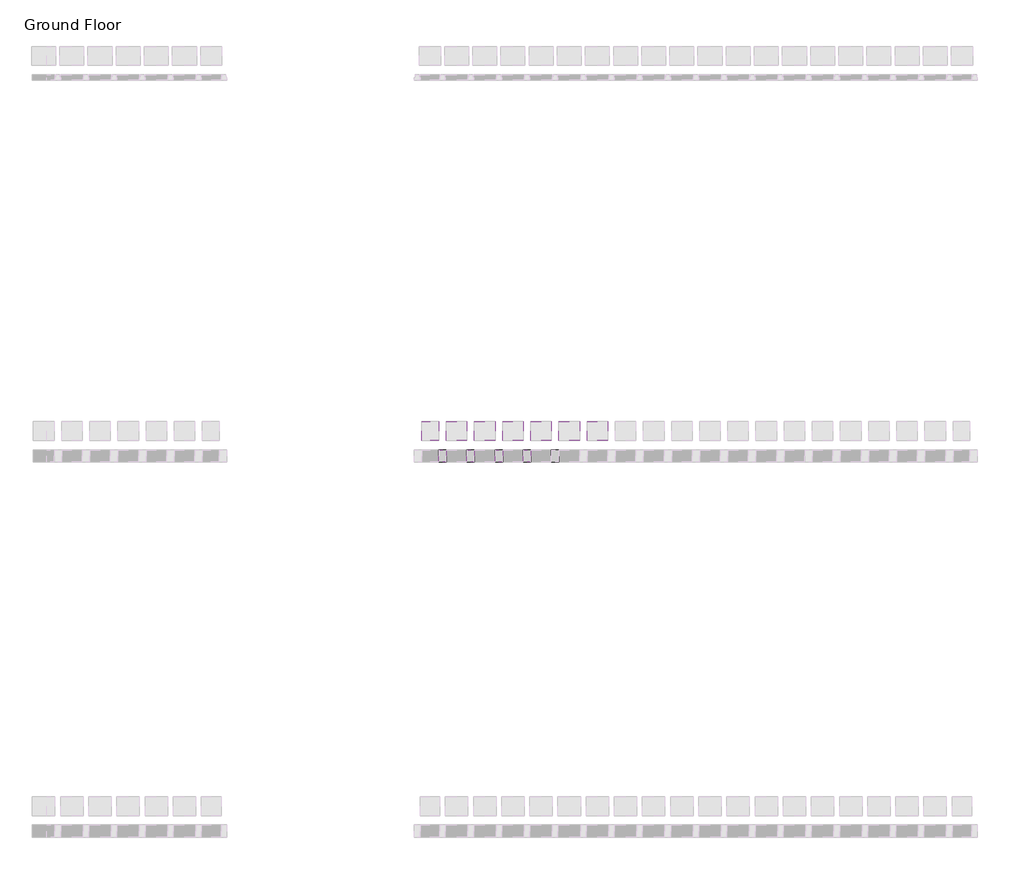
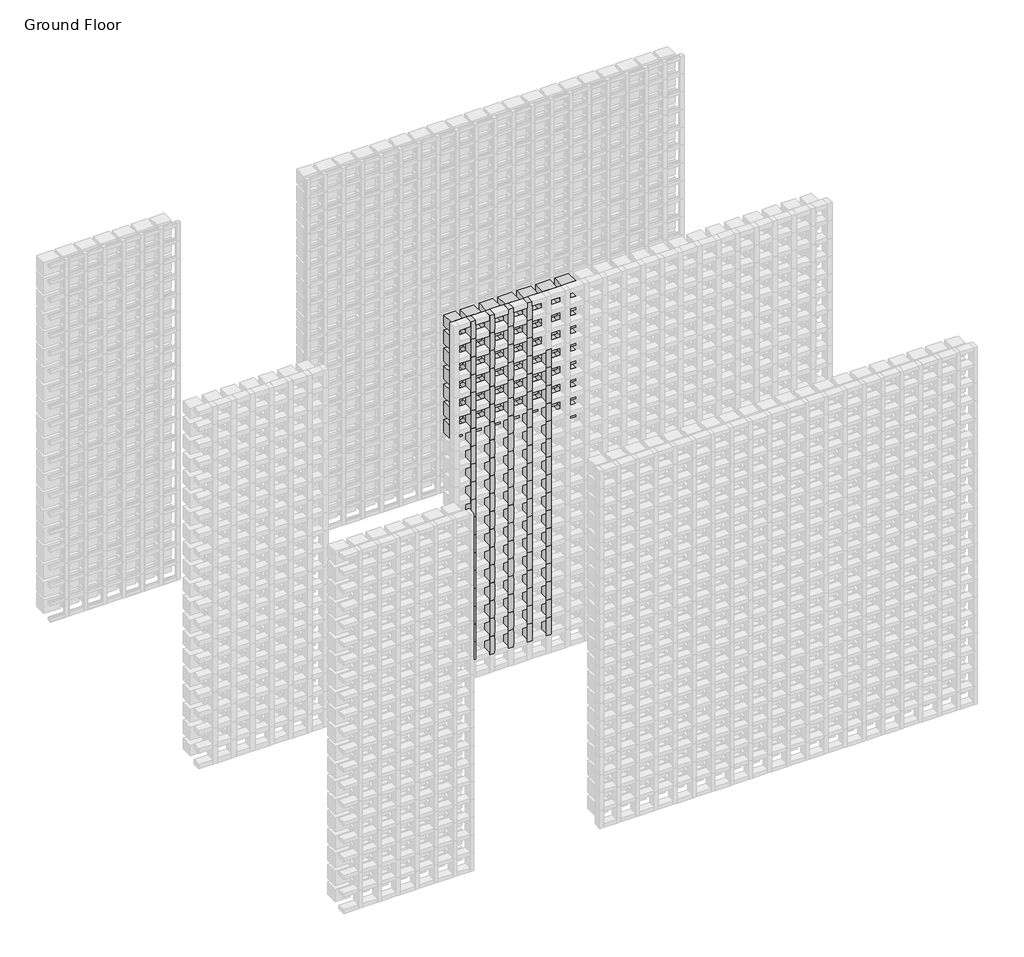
# One storey, part 95 of 350: 92 members, 50 plates.
"""IFC4 building model written with IfcOpenShell, lengths in millimetres."""

from ifc_helpers import new_model, si_unit, origin, place, context, project, spatial, transform, mapped, element, save
from components import rectangular_mullion_655930e9, empty_system_panel_empty_3b500fad, empty_system_panel_empty_e4510abc, empty_system_panel_empty_1faefc6a, empty_system_panel_empty_7f4523f5

model = new_model("IFC4")

# Units and contexts
model_context = context("Model", 3, world=origin())
ifc_project = project(units=[si_unit("LENGTHUNIT", "METRE", prefix="MILLI")], contexts=[model_context])

# Site, building, storey
site = spatial("IfcSite", under=ifc_project)
building = spatial("IfcBuilding", under=site)
storey = spatial("IfcBuildingStorey", under=building, Name="Ground Floor", Elevation=0.0)

# Members
placement = place(None, origin())
rectangular_mullion_shape = rectangular_mullion_655930e9(model_context)
element("IfcMember", 1, ObjectType="Rectangular Mullion : Batten_Timber_Modinex_Austratus_Grid_Fascia_40x65_Blackbutt", at=placement, inside=storey, context=model_context, shape_type="MappedRepresentation", body=[
    mapped(rectangular_mullion_shape, transform((6066.4361642, 40968.2978302, 150.0), x_axis=(1.0, 0.0, 0.0), y_axis=(0.0, -1.0, 0.0), z_axis=(0.0, 0.0, -1.0))),
])
element("IfcMember", 2, ObjectType="Rectangular Mullion : Batten_Timber_Modinex_Austratus_Grid_Fascia_40x65_Blackbutt", at=placement, inside=storey, context=model_context, shape_type="MappedRepresentation", body=[
    mapped(rectangular_mullion_shape, transform((6066.4361642, 40968.2978302, 300.0), x_axis=(1.0, 0.0, 0.0), y_axis=(0.0, -1.0, 0.0), z_axis=(0.0, 0.0, -1.0))),
])
element("IfcMember", 3, ObjectType="Rectangular Mullion : Batten_Timber_Modinex_Austratus_Grid_Fascia_40x65_Blackbutt", at=placement, inside=storey, context=model_context, shape_type="MappedRepresentation", body=[
    mapped(rectangular_mullion_shape, transform((6066.4361642, 40968.2978302, 450.0), x_axis=(1.0, 0.0, 0.0), y_axis=(0.0, -1.0, 0.0), z_axis=(0.0, 0.0, -1.0))),
])
element("IfcMember", 4, ObjectType="Rectangular Mullion : Batten_Timber_Modinex_Austratus_Grid_Fascia_40x65_Blackbutt", at=placement, inside=storey, context=model_context, shape_type="MappedRepresentation", body=[
    mapped(rectangular_mullion_shape, transform((6066.4361642, 40968.2978302, 600.0), x_axis=(1.0, 0.0, 0.0), y_axis=(0.0, -1.0, 0.0), z_axis=(0.0, 0.0, -1.0))),
])
element("IfcMember", 5, ObjectType="Rectangular Mullion : Batten_Timber_Modinex_Austratus_Grid_Fascia_40x65_Blackbutt", at=placement, inside=storey, context=model_context, shape_type="MappedRepresentation", body=[
    mapped(rectangular_mullion_shape, transform((6066.4361642, 40968.2978302, 750.0), x_axis=(1.0, 0.0, 0.0), y_axis=(0.0, -1.0, 0.0), z_axis=(0.0, 0.0, -1.0))),
])
element("IfcMember", 6, ObjectType="Rectangular Mullion : Batten_Timber_Modinex_Austratus_Grid_Fascia_40x65_Blackbutt", at=placement, inside=storey, context=model_context, shape_type="MappedRepresentation", body=[
    mapped(rectangular_mullion_shape, transform((6066.4361642, 40968.2978302, 900.0), x_axis=(1.0, 0.0, 0.0), y_axis=(0.0, -1.0, 0.0), z_axis=(0.0, 0.0, -1.0))),
])
element("IfcMember", 7, ObjectType="Rectangular Mullion : Batten_Timber_Modinex_Austratus_Grid_Fascia_40x65_Blackbutt", at=placement, inside=storey, context=model_context, shape_type="MappedRepresentation", body=[
    mapped(rectangular_mullion_shape, transform((6066.4361642, 40968.2978302, 1050.0), x_axis=(1.0, 0.0, 0.0), y_axis=(0.0, -1.0, 0.0), z_axis=(0.0, 0.0, -1.0))),
])
element("IfcMember", 8, ObjectType="Rectangular Mullion : Batten_Timber_Modinex_Austratus_Grid_Fascia_40x65_Blackbutt", at=placement, inside=storey, context=model_context, shape_type="MappedRepresentation", body=[
    mapped(rectangular_mullion_shape, transform((6066.4361642, 40968.2978302, 1200.0), x_axis=(1.0, 0.0, 0.0), y_axis=(0.0, -1.0, 0.0), z_axis=(0.0, 0.0, -1.0))),
])
element("IfcMember", 9, ObjectType="Rectangular Mullion : Batten_Timber_Modinex_Austratus_Grid_Fascia_40x65_Blackbutt", at=placement, inside=storey, context=model_context, shape_type="MappedRepresentation", body=[
    mapped(rectangular_mullion_shape, transform((6066.4361642, 40968.2978302, 1350.0), x_axis=(1.0, 0.0, 0.0), y_axis=(0.0, -1.0, 0.0), z_axis=(0.0, 0.0, -1.0))),
])
element("IfcMember", 10, ObjectType="Rectangular Mullion : Batten_Timber_Modinex_Austratus_Grid_Fascia_40x65_Blackbutt", at=placement, inside=storey, context=model_context, shape_type="MappedRepresentation", body=[
    mapped(rectangular_mullion_shape, transform((6066.4361642, 40968.2978302, 1500.0), x_axis=(1.0, 0.0, 0.0), y_axis=(0.0, -1.0, 0.0), z_axis=(0.0, 0.0, -1.0))),
])
element("IfcMember", 11, ObjectType="Rectangular Mullion : Batten_Timber_Modinex_Austratus_Grid_Fascia_40x65_Blackbutt", at=placement, inside=storey, context=model_context, shape_type="MappedRepresentation", body=[
    mapped(rectangular_mullion_shape, transform((6066.4361642, 40968.2978302, 1650.0), x_axis=(1.0, 0.0, 0.0), y_axis=(0.0, -1.0, 0.0), z_axis=(0.0, 0.0, -1.0))),
])
element("IfcMember", 12, ObjectType="Rectangular Mullion : Batten_Timber_Modinex_Austratus_Grid_Fascia_40x65_Blackbutt", at=placement, inside=storey, context=model_context, shape_type="MappedRepresentation", body=[
    mapped(rectangular_mullion_shape, transform((6066.4361642, 40968.2978302, 1800.0), x_axis=(1.0, 0.0, 0.0), y_axis=(0.0, -1.0, 0.0), z_axis=(0.0, 0.0, -1.0))),
])
element("IfcMember", 13, ObjectType="Rectangular Mullion : Batten_Timber_Modinex_Austratus_Grid_Fascia_40x65_Blackbutt", at=placement, inside=storey, context=model_context, shape_type="MappedRepresentation", body=[
    mapped(rectangular_mullion_shape, transform((6066.4361642, 40968.2978302, 1950.0), x_axis=(1.0, 0.0, 0.0), y_axis=(0.0, -1.0, 0.0), z_axis=(0.0, 0.0, -1.0))),
])
element("IfcMember", 14, ObjectType="Rectangular Mullion : Batten_Timber_Modinex_Austratus_Grid_Fascia_40x65_Blackbutt", at=placement, inside=storey, context=model_context, shape_type="MappedRepresentation", body=[
    mapped(rectangular_mullion_shape, transform((6066.4361642, 40968.2978302, 2100.0), x_axis=(1.0, 0.0, 0.0), y_axis=(0.0, -1.0, 0.0), z_axis=(0.0, 0.0, -1.0))),
])
element("IfcMember", 15, ObjectType="Rectangular Mullion : Batten_Timber_Modinex_Austratus_Grid_Fascia_40x65_Blackbutt", at=placement, inside=storey, context=model_context, shape_type="MappedRepresentation", body=[
    mapped(rectangular_mullion_shape, transform((6066.4361642, 40968.2978302, 2250.0), x_axis=(1.0, 0.0, 0.0), y_axis=(0.0, -1.0, 0.0), z_axis=(0.0, 0.0, -1.0))),
])
element("IfcMember", 16, ObjectType="Rectangular Mullion : Batten_Timber_Modinex_Austratus_Grid_Fascia_40x65_Blackbutt", at=placement, inside=storey, context=model_context, shape_type="MappedRepresentation", body=[
    mapped(rectangular_mullion_shape, transform((6066.4361642, 40968.2978302, 2400.0), x_axis=(1.0, 0.0, 0.0), y_axis=(0.0, -1.0, 0.0), z_axis=(0.0, 0.0, -1.0))),
])
element("IfcMember", 17, ObjectType="Rectangular Mullion : Batten_Timber_Modinex_Austratus_Grid_Fascia_40x65_Blackbutt", at=placement, inside=storey, context=model_context, shape_type="MappedRepresentation", body=[
    mapped(rectangular_mullion_shape, transform((6066.4361642, 40968.2978302, 2550.0), x_axis=(1.0, 0.0, 0.0), y_axis=(0.0, -1.0, 0.0), z_axis=(0.0, 0.0, -1.0))),
])
element("IfcMember", 18, ObjectType="Rectangular Mullion : Batten_Timber_Modinex_Austratus_Grid_Fascia_40x65_Blackbutt", at=placement, inside=storey, context=model_context, shape_type="MappedRepresentation", body=[
    mapped(rectangular_mullion_shape, transform((6066.4361642, 40968.2978302, 2700.0), x_axis=(1.0, 0.0, 0.0), y_axis=(0.0, -1.0, 0.0), z_axis=(0.0, 0.0, -1.0))),
])
element("IfcMember", 19, ObjectType="Rectangular Mullion : Batten_Timber_Modinex_Austratus_Grid_Fascia_40x65_Blackbutt", at=placement, inside=storey, context=model_context, shape_type="MappedRepresentation", body=[
    mapped(rectangular_mullion_shape, transform((6216.4361642, 40968.2978302, 150.0), x_axis=(1.0, 0.0, 0.0), y_axis=(0.0, -1.0, 0.0), z_axis=(0.0, 0.0, -1.0))),
])
element("IfcMember", 20, ObjectType="Rectangular Mullion : Batten_Timber_Modinex_Austratus_Grid_Fascia_40x65_Blackbutt", at=placement, inside=storey, context=model_context, shape_type="MappedRepresentation", body=[
    mapped(rectangular_mullion_shape, transform((6216.4361642, 40968.2978302, 300.0), x_axis=(1.0, 0.0, 0.0), y_axis=(0.0, -1.0, 0.0), z_axis=(0.0, 0.0, -1.0))),
])
element("IfcMember", 21, ObjectType="Rectangular Mullion : Batten_Timber_Modinex_Austratus_Grid_Fascia_40x65_Blackbutt", at=placement, inside=storey, context=model_context, shape_type="MappedRepresentation", body=[
    mapped(rectangular_mullion_shape, transform((6216.4361642, 40968.2978302, 450.0), x_axis=(1.0, 0.0, 0.0), y_axis=(0.0, -1.0, 0.0), z_axis=(0.0, 0.0, -1.0))),
])
element("IfcMember", 22, ObjectType="Rectangular Mullion : Batten_Timber_Modinex_Austratus_Grid_Fascia_40x65_Blackbutt", at=placement, inside=storey, context=model_context, shape_type="MappedRepresentation", body=[
    mapped(rectangular_mullion_shape, transform((6216.4361642, 40968.2978302, 600.0), x_axis=(1.0, 0.0, 0.0), y_axis=(0.0, -1.0, 0.0), z_axis=(0.0, 0.0, -1.0))),
])
element("IfcMember", 23, ObjectType="Rectangular Mullion : Batten_Timber_Modinex_Austratus_Grid_Fascia_40x65_Blackbutt", at=placement, inside=storey, context=model_context, shape_type="MappedRepresentation", body=[
    mapped(rectangular_mullion_shape, transform((6216.4361642, 40968.2978302, 750.0), x_axis=(1.0, 0.0, 0.0), y_axis=(0.0, -1.0, 0.0), z_axis=(0.0, 0.0, -1.0))),
])
element("IfcMember", 24, ObjectType="Rectangular Mullion : Batten_Timber_Modinex_Austratus_Grid_Fascia_40x65_Blackbutt", at=placement, inside=storey, context=model_context, shape_type="MappedRepresentation", body=[
    mapped(rectangular_mullion_shape, transform((6216.4361642, 40968.2978302, 900.0), x_axis=(1.0, 0.0, 0.0), y_axis=(0.0, -1.0, 0.0), z_axis=(0.0, 0.0, -1.0))),
])
element("IfcMember", 25, ObjectType="Rectangular Mullion : Batten_Timber_Modinex_Austratus_Grid_Fascia_40x65_Blackbutt", at=placement, inside=storey, context=model_context, shape_type="MappedRepresentation", body=[
    mapped(rectangular_mullion_shape, transform((6216.4361642, 40968.2978302, 1050.0), x_axis=(1.0, 0.0, 0.0), y_axis=(0.0, -1.0, 0.0), z_axis=(0.0, 0.0, -1.0))),
])
element("IfcMember", 26, ObjectType="Rectangular Mullion : Batten_Timber_Modinex_Austratus_Grid_Fascia_40x65_Blackbutt", at=placement, inside=storey, context=model_context, shape_type="MappedRepresentation", body=[
    mapped(rectangular_mullion_shape, transform((6216.4361642, 40968.2978302, 1200.0), x_axis=(1.0, 0.0, 0.0), y_axis=(0.0, -1.0, 0.0), z_axis=(0.0, 0.0, -1.0))),
])
element("IfcMember", 27, ObjectType="Rectangular Mullion : Batten_Timber_Modinex_Austratus_Grid_Fascia_40x65_Blackbutt", at=placement, inside=storey, context=model_context, shape_type="MappedRepresentation", body=[
    mapped(rectangular_mullion_shape, transform((6216.4361642, 40968.2978302, 1350.0), x_axis=(1.0, 0.0, 0.0), y_axis=(0.0, -1.0, 0.0), z_axis=(0.0, 0.0, -1.0))),
])
element("IfcMember", 28, ObjectType="Rectangular Mullion : Batten_Timber_Modinex_Austratus_Grid_Fascia_40x65_Blackbutt", at=placement, inside=storey, context=model_context, shape_type="MappedRepresentation", body=[
    mapped(rectangular_mullion_shape, transform((6216.4361642, 40968.2978302, 1500.0), x_axis=(1.0, 0.0, 0.0), y_axis=(0.0, -1.0, 0.0), z_axis=(0.0, 0.0, -1.0))),
])
element("IfcMember", 29, ObjectType="Rectangular Mullion : Batten_Timber_Modinex_Austratus_Grid_Fascia_40x65_Blackbutt", at=placement, inside=storey, context=model_context, shape_type="MappedRepresentation", body=[
    mapped(rectangular_mullion_shape, transform((6216.4361642, 40968.2978302, 1650.0), x_axis=(1.0, 0.0, 0.0), y_axis=(0.0, -1.0, 0.0), z_axis=(0.0, 0.0, -1.0))),
])
element("IfcMember", 30, ObjectType="Rectangular Mullion : Batten_Timber_Modinex_Austratus_Grid_Fascia_40x65_Blackbutt", at=placement, inside=storey, context=model_context, shape_type="MappedRepresentation", body=[
    mapped(rectangular_mullion_shape, transform((6216.4361642, 40968.2978302, 1800.0), x_axis=(1.0, 0.0, 0.0), y_axis=(0.0, -1.0, 0.0), z_axis=(0.0, 0.0, -1.0))),
])
element("IfcMember", 31, ObjectType="Rectangular Mullion : Batten_Timber_Modinex_Austratus_Grid_Fascia_40x65_Blackbutt", at=placement, inside=storey, context=model_context, shape_type="MappedRepresentation", body=[
    mapped(rectangular_mullion_shape, transform((6216.4361642, 40968.2978302, 1950.0), x_axis=(1.0, 0.0, 0.0), y_axis=(0.0, -1.0, 0.0), z_axis=(0.0, 0.0, -1.0))),
])
element("IfcMember", 32, ObjectType="Rectangular Mullion : Batten_Timber_Modinex_Austratus_Grid_Fascia_40x65_Blackbutt", at=placement, inside=storey, context=model_context, shape_type="MappedRepresentation", body=[
    mapped(rectangular_mullion_shape, transform((6216.4361642, 40968.2978302, 2100.0), x_axis=(1.0, 0.0, 0.0), y_axis=(0.0, -1.0, 0.0), z_axis=(0.0, 0.0, -1.0))),
])
element("IfcMember", 33, ObjectType="Rectangular Mullion : Batten_Timber_Modinex_Austratus_Grid_Fascia_40x65_Blackbutt", at=placement, inside=storey, context=model_context, shape_type="MappedRepresentation", body=[
    mapped(rectangular_mullion_shape, transform((6216.4361642, 40968.2978302, 2250.0), x_axis=(1.0, 0.0, 0.0), y_axis=(0.0, -1.0, 0.0), z_axis=(0.0, 0.0, -1.0))),
])
element("IfcMember", 34, ObjectType="Rectangular Mullion : Batten_Timber_Modinex_Austratus_Grid_Fascia_40x65_Blackbutt", at=placement, inside=storey, context=model_context, shape_type="MappedRepresentation", body=[
    mapped(rectangular_mullion_shape, transform((6216.4361642, 40968.2978302, 2400.0), x_axis=(1.0, 0.0, 0.0), y_axis=(0.0, -1.0, 0.0), z_axis=(0.0, 0.0, -1.0))),
])
element("IfcMember", 35, ObjectType="Rectangular Mullion : Batten_Timber_Modinex_Austratus_Grid_Fascia_40x65_Blackbutt", at=placement, inside=storey, context=model_context, shape_type="MappedRepresentation", body=[
    mapped(rectangular_mullion_shape, transform((6216.4361642, 40968.2978302, 2550.0), x_axis=(1.0, 0.0, 0.0), y_axis=(0.0, -1.0, 0.0), z_axis=(0.0, 0.0, -1.0))),
])
element("IfcMember", 36, ObjectType="Rectangular Mullion : Batten_Timber_Modinex_Austratus_Grid_Fascia_40x65_Blackbutt", at=placement, inside=storey, context=model_context, shape_type="MappedRepresentation", body=[
    mapped(rectangular_mullion_shape, transform((6216.4361642, 40968.2978302, 2700.0), x_axis=(1.0, 0.0, 0.0), y_axis=(0.0, -1.0, 0.0), z_axis=(0.0, 0.0, -1.0))),
])
element("IfcMember", 37, ObjectType="Rectangular Mullion : Batten_Timber_Modinex_Austratus_Grid_Fascia_40x65_Blackbutt", at=placement, inside=storey, context=model_context, shape_type="MappedRepresentation", body=[
    mapped(rectangular_mullion_shape, transform((6366.4361642, 40968.2978302, 150.0), x_axis=(1.0, 0.0, 0.0), y_axis=(0.0, -1.0, 0.0), z_axis=(0.0, 0.0, -1.0))),
])
element("IfcMember", 38, ObjectType="Rectangular Mullion : Batten_Timber_Modinex_Austratus_Grid_Fascia_40x65_Blackbutt", at=placement, inside=storey, context=model_context, shape_type="MappedRepresentation", body=[
    mapped(rectangular_mullion_shape, transform((6366.4361642, 40968.2978302, 300.0), x_axis=(1.0, 0.0, 0.0), y_axis=(0.0, -1.0, 0.0), z_axis=(0.0, 0.0, -1.0))),
])
element("IfcMember", 39, ObjectType="Rectangular Mullion : Batten_Timber_Modinex_Austratus_Grid_Fascia_40x65_Blackbutt", at=placement, inside=storey, context=model_context, shape_type="MappedRepresentation", body=[
    mapped(rectangular_mullion_shape, transform((6366.4361642, 40968.2978302, 450.0), x_axis=(1.0, 0.0, 0.0), y_axis=(0.0, -1.0, 0.0), z_axis=(0.0, 0.0, -1.0))),
])
element("IfcMember", 40, ObjectType="Rectangular Mullion : Batten_Timber_Modinex_Austratus_Grid_Fascia_40x65_Blackbutt", at=placement, inside=storey, context=model_context, shape_type="MappedRepresentation", body=[
    mapped(rectangular_mullion_shape, transform((6366.4361642, 40968.2978302, 600.0), x_axis=(1.0, 0.0, 0.0), y_axis=(0.0, -1.0, 0.0), z_axis=(0.0, 0.0, -1.0))),
])
element("IfcMember", 41, ObjectType="Rectangular Mullion : Batten_Timber_Modinex_Austratus_Grid_Fascia_40x65_Blackbutt", at=placement, inside=storey, context=model_context, shape_type="MappedRepresentation", body=[
    mapped(rectangular_mullion_shape, transform((6366.4361642, 40968.2978302, 750.0), x_axis=(1.0, 0.0, 0.0), y_axis=(0.0, -1.0, 0.0), z_axis=(0.0, 0.0, -1.0))),
])
element("IfcMember", 42, ObjectType="Rectangular Mullion : Batten_Timber_Modinex_Austratus_Grid_Fascia_40x65_Blackbutt", at=placement, inside=storey, context=model_context, shape_type="MappedRepresentation", body=[
    mapped(rectangular_mullion_shape, transform((6366.4361642, 40968.2978302, 900.0), x_axis=(1.0, 0.0, 0.0), y_axis=(0.0, -1.0, 0.0), z_axis=(0.0, 0.0, -1.0))),
])
element("IfcMember", 43, ObjectType="Rectangular Mullion : Batten_Timber_Modinex_Austratus_Grid_Fascia_40x65_Blackbutt", at=placement, inside=storey, context=model_context, shape_type="MappedRepresentation", body=[
    mapped(rectangular_mullion_shape, transform((6366.4361642, 40968.2978302, 1050.0), x_axis=(1.0, 0.0, 0.0), y_axis=(0.0, -1.0, 0.0), z_axis=(0.0, 0.0, -1.0))),
])
element("IfcMember", 44, ObjectType="Rectangular Mullion : Batten_Timber_Modinex_Austratus_Grid_Fascia_40x65_Blackbutt", at=placement, inside=storey, context=model_context, shape_type="MappedRepresentation", body=[
    mapped(rectangular_mullion_shape, transform((6366.4361642, 40968.2978302, 1200.0), x_axis=(1.0, 0.0, 0.0), y_axis=(0.0, -1.0, 0.0), z_axis=(0.0, 0.0, -1.0))),
])
element("IfcMember", 45, ObjectType="Rectangular Mullion : Batten_Timber_Modinex_Austratus_Grid_Fascia_40x65_Blackbutt", at=placement, inside=storey, context=model_context, shape_type="MappedRepresentation", body=[
    mapped(rectangular_mullion_shape, transform((6366.4361642, 40968.2978302, 1350.0), x_axis=(1.0, 0.0, 0.0), y_axis=(0.0, -1.0, 0.0), z_axis=(0.0, 0.0, -1.0))),
])
element("IfcMember", 46, ObjectType="Rectangular Mullion : Batten_Timber_Modinex_Austratus_Grid_Fascia_40x65_Blackbutt", at=placement, inside=storey, context=model_context, shape_type="MappedRepresentation", body=[
    mapped(rectangular_mullion_shape, transform((6366.4361642, 40968.2978302, 1500.0), x_axis=(1.0, 0.0, 0.0), y_axis=(0.0, -1.0, 0.0), z_axis=(0.0, 0.0, -1.0))),
])
element("IfcMember", 47, ObjectType="Rectangular Mullion : Batten_Timber_Modinex_Austratus_Grid_Fascia_40x65_Blackbutt", at=placement, inside=storey, context=model_context, shape_type="MappedRepresentation", body=[
    mapped(rectangular_mullion_shape, transform((6366.4361642, 40968.2978302, 1650.0), x_axis=(1.0, 0.0, 0.0), y_axis=(0.0, -1.0, 0.0), z_axis=(0.0, 0.0, -1.0))),
])
element("IfcMember", 48, ObjectType="Rectangular Mullion : Batten_Timber_Modinex_Austratus_Grid_Fascia_40x65_Blackbutt", at=placement, inside=storey, context=model_context, shape_type="MappedRepresentation", body=[
    mapped(rectangular_mullion_shape, transform((6366.4361642, 40968.2978302, 1800.0), x_axis=(1.0, 0.0, 0.0), y_axis=(0.0, -1.0, 0.0), z_axis=(0.0, 0.0, -1.0))),
])
element("IfcMember", 49, ObjectType="Rectangular Mullion : Batten_Timber_Modinex_Austratus_Grid_Fascia_40x65_Blackbutt", at=placement, inside=storey, context=model_context, shape_type="MappedRepresentation", body=[
    mapped(rectangular_mullion_shape, transform((6366.4361642, 40968.2978302, 1950.0), x_axis=(1.0, 0.0, 0.0), y_axis=(0.0, -1.0, 0.0), z_axis=(0.0, 0.0, -1.0))),
])
element("IfcMember", 50, ObjectType="Rectangular Mullion : Batten_Timber_Modinex_Austratus_Grid_Fascia_40x65_Blackbutt", at=placement, inside=storey, context=model_context, shape_type="MappedRepresentation", body=[
    mapped(rectangular_mullion_shape, transform((6366.4361642, 40968.2978302, 2100.0), x_axis=(1.0, 0.0, 0.0), y_axis=(0.0, -1.0, 0.0), z_axis=(0.0, 0.0, -1.0))),
])
element("IfcMember", 51, ObjectType="Rectangular Mullion : Batten_Timber_Modinex_Austratus_Grid_Fascia_40x65_Blackbutt", at=placement, inside=storey, context=model_context, shape_type="MappedRepresentation", body=[
    mapped(rectangular_mullion_shape, transform((6366.4361642, 40968.2978302, 2250.0), x_axis=(1.0, 0.0, 0.0), y_axis=(0.0, -1.0, 0.0), z_axis=(0.0, 0.0, -1.0))),
])
element("IfcMember", 52, ObjectType="Rectangular Mullion : Batten_Timber_Modinex_Austratus_Grid_Fascia_40x65_Blackbutt", at=placement, inside=storey, context=model_context, shape_type="MappedRepresentation", body=[
    mapped(rectangular_mullion_shape, transform((6366.4361642, 40968.2978302, 2400.0), x_axis=(1.0, 0.0, 0.0), y_axis=(0.0, -1.0, 0.0), z_axis=(0.0, 0.0, -1.0))),
])
element("IfcMember", 53, ObjectType="Rectangular Mullion : Batten_Timber_Modinex_Austratus_Grid_Fascia_40x65_Blackbutt", at=placement, inside=storey, context=model_context, shape_type="MappedRepresentation", body=[
    mapped(rectangular_mullion_shape, transform((6366.4361642, 40968.2978302, 2550.0), x_axis=(1.0, 0.0, 0.0), y_axis=(0.0, -1.0, 0.0), z_axis=(0.0, 0.0, -1.0))),
])
element("IfcMember", 54, ObjectType="Rectangular Mullion : Batten_Timber_Modinex_Austratus_Grid_Fascia_40x65_Blackbutt", at=placement, inside=storey, context=model_context, shape_type="MappedRepresentation", body=[
    mapped(rectangular_mullion_shape, transform((6366.4361642, 40968.2978302, 2700.0), x_axis=(1.0, 0.0, 0.0), y_axis=(0.0, -1.0, 0.0), z_axis=(0.0, 0.0, -1.0))),
])
element("IfcMember", 55, ObjectType="Rectangular Mullion : Batten_Timber_Modinex_Austratus_Grid_Fascia_40x65_Blackbutt", at=placement, inside=storey, context=model_context, shape_type="MappedRepresentation", body=[
    mapped(rectangular_mullion_shape, transform((6516.4361642, 40968.2978302, 150.0), x_axis=(1.0, 0.0, 0.0), y_axis=(0.0, -1.0, 0.0), z_axis=(0.0, 0.0, -1.0))),
])
element("IfcMember", 56, ObjectType="Rectangular Mullion : Batten_Timber_Modinex_Austratus_Grid_Fascia_40x65_Blackbutt", at=placement, inside=storey, context=model_context, shape_type="MappedRepresentation", body=[
    mapped(rectangular_mullion_shape, transform((6516.4361642, 40968.2978302, 300.0), x_axis=(1.0, 0.0, 0.0), y_axis=(0.0, -1.0, 0.0), z_axis=(0.0, 0.0, -1.0))),
])
element("IfcMember", 57, ObjectType="Rectangular Mullion : Batten_Timber_Modinex_Austratus_Grid_Fascia_40x65_Blackbutt", at=placement, inside=storey, context=model_context, shape_type="MappedRepresentation", body=[
    mapped(rectangular_mullion_shape, transform((6516.4361642, 40968.2978302, 450.0), x_axis=(1.0, 0.0, 0.0), y_axis=(0.0, -1.0, 0.0), z_axis=(0.0, 0.0, -1.0))),
])
element("IfcMember", 58, ObjectType="Rectangular Mullion : Batten_Timber_Modinex_Austratus_Grid_Fascia_40x65_Blackbutt", at=placement, inside=storey, context=model_context, shape_type="MappedRepresentation", body=[
    mapped(rectangular_mullion_shape, transform((6516.4361642, 40968.2978302, 600.0), x_axis=(1.0, 0.0, 0.0), y_axis=(0.0, -1.0, 0.0), z_axis=(0.0, 0.0, -1.0))),
])
element("IfcMember", 59, ObjectType="Rectangular Mullion : Batten_Timber_Modinex_Austratus_Grid_Fascia_40x65_Blackbutt", at=placement, inside=storey, context=model_context, shape_type="MappedRepresentation", body=[
    mapped(rectangular_mullion_shape, transform((6516.4361642, 40968.2978302, 750.0), x_axis=(1.0, 0.0, 0.0), y_axis=(0.0, -1.0, 0.0), z_axis=(0.0, 0.0, -1.0))),
])
element("IfcMember", 60, ObjectType="Rectangular Mullion : Batten_Timber_Modinex_Austratus_Grid_Fascia_40x65_Blackbutt", at=placement, inside=storey, context=model_context, shape_type="MappedRepresentation", body=[
    mapped(rectangular_mullion_shape, transform((6516.4361642, 40968.2978302, 900.0), x_axis=(1.0, 0.0, 0.0), y_axis=(0.0, -1.0, 0.0), z_axis=(0.0, 0.0, -1.0))),
])
element("IfcMember", 61, ObjectType="Rectangular Mullion : Batten_Timber_Modinex_Austratus_Grid_Fascia_40x65_Blackbutt", at=placement, inside=storey, context=model_context, shape_type="MappedRepresentation", body=[
    mapped(rectangular_mullion_shape, transform((6516.4361642, 40968.2978302, 1050.0), x_axis=(1.0, 0.0, 0.0), y_axis=(0.0, -1.0, 0.0), z_axis=(0.0, 0.0, -1.0))),
])
element("IfcMember", 62, ObjectType="Rectangular Mullion : Batten_Timber_Modinex_Austratus_Grid_Fascia_40x65_Blackbutt", at=placement, inside=storey, context=model_context, shape_type="MappedRepresentation", body=[
    mapped(rectangular_mullion_shape, transform((6516.4361642, 40968.2978302, 1200.0), x_axis=(1.0, 0.0, 0.0), y_axis=(0.0, -1.0, 0.0), z_axis=(0.0, 0.0, -1.0))),
])
element("IfcMember", 63, ObjectType="Rectangular Mullion : Batten_Timber_Modinex_Austratus_Grid_Fascia_40x65_Blackbutt", at=placement, inside=storey, context=model_context, shape_type="MappedRepresentation", body=[
    mapped(rectangular_mullion_shape, transform((6516.4361642, 40968.2978302, 1350.0), x_axis=(1.0, 0.0, 0.0), y_axis=(0.0, -1.0, 0.0), z_axis=(0.0, 0.0, -1.0))),
])
element("IfcMember", 64, ObjectType="Rectangular Mullion : Batten_Timber_Modinex_Austratus_Grid_Fascia_40x65_Blackbutt", at=placement, inside=storey, context=model_context, shape_type="MappedRepresentation", body=[
    mapped(rectangular_mullion_shape, transform((6516.4361642, 40968.2978302, 1500.0), x_axis=(1.0, 0.0, 0.0), y_axis=(0.0, -1.0, 0.0), z_axis=(0.0, 0.0, -1.0))),
])
element("IfcMember", 65, ObjectType="Rectangular Mullion : Batten_Timber_Modinex_Austratus_Grid_Fascia_40x65_Blackbutt", at=placement, inside=storey, context=model_context, shape_type="MappedRepresentation", body=[
    mapped(rectangular_mullion_shape, transform((6516.4361642, 40968.2978302, 1650.0), x_axis=(1.0, 0.0, 0.0), y_axis=(0.0, -1.0, 0.0), z_axis=(0.0, 0.0, -1.0))),
])
element("IfcMember", 66, ObjectType="Rectangular Mullion : Batten_Timber_Modinex_Austratus_Grid_Fascia_40x65_Blackbutt", at=placement, inside=storey, context=model_context, shape_type="MappedRepresentation", body=[
    mapped(rectangular_mullion_shape, transform((6516.4361642, 40968.2978302, 1800.0), x_axis=(1.0, 0.0, 0.0), y_axis=(0.0, -1.0, 0.0), z_axis=(0.0, 0.0, -1.0))),
])
element("IfcMember", 67, ObjectType="Rectangular Mullion : Batten_Timber_Modinex_Austratus_Grid_Fascia_40x65_Blackbutt", at=placement, inside=storey, context=model_context, shape_type="MappedRepresentation", body=[
    mapped(rectangular_mullion_shape, transform((6516.4361642, 40968.2978302, 1950.0), x_axis=(1.0, 0.0, 0.0), y_axis=(0.0, -1.0, 0.0), z_axis=(0.0, 0.0, -1.0))),
])
element("IfcMember", 68, ObjectType="Rectangular Mullion : Batten_Timber_Modinex_Austratus_Grid_Fascia_40x65_Blackbutt", at=placement, inside=storey, context=model_context, shape_type="MappedRepresentation", body=[
    mapped(rectangular_mullion_shape, transform((6516.4361642, 40968.2978302, 2100.0), x_axis=(1.0, 0.0, 0.0), y_axis=(0.0, -1.0, 0.0), z_axis=(0.0, 0.0, -1.0))),
])
element("IfcMember", 69, ObjectType="Rectangular Mullion : Batten_Timber_Modinex_Austratus_Grid_Fascia_40x65_Blackbutt", at=placement, inside=storey, context=model_context, shape_type="MappedRepresentation", body=[
    mapped(rectangular_mullion_shape, transform((6516.4361642, 40968.2978302, 2250.0), x_axis=(1.0, 0.0, 0.0), y_axis=(0.0, -1.0, 0.0), z_axis=(0.0, 0.0, -1.0))),
])
element("IfcMember", 70, ObjectType="Rectangular Mullion : Batten_Timber_Modinex_Austratus_Grid_Fascia_40x65_Blackbutt", at=placement, inside=storey, context=model_context, shape_type="MappedRepresentation", body=[
    mapped(rectangular_mullion_shape, transform((6516.4361642, 40968.2978302, 2400.0), x_axis=(1.0, 0.0, 0.0), y_axis=(0.0, -1.0, 0.0), z_axis=(0.0, 0.0, -1.0))),
])
element("IfcMember", 71, ObjectType="Rectangular Mullion : Batten_Timber_Modinex_Austratus_Grid_Fascia_40x65_Blackbutt", at=placement, inside=storey, context=model_context, shape_type="MappedRepresentation", body=[
    mapped(rectangular_mullion_shape, transform((6516.4361642, 40968.2978302, 2550.0), x_axis=(1.0, 0.0, 0.0), y_axis=(0.0, -1.0, 0.0), z_axis=(0.0, 0.0, -1.0))),
])
element("IfcMember", 72, ObjectType="Rectangular Mullion : Batten_Timber_Modinex_Austratus_Grid_Fascia_40x65_Blackbutt", at=placement, inside=storey, context=model_context, shape_type="MappedRepresentation", body=[
    mapped(rectangular_mullion_shape, transform((6516.4361642, 40968.2978302, 2700.0), x_axis=(1.0, 0.0, 0.0), y_axis=(0.0, -1.0, 0.0), z_axis=(0.0, 0.0, -1.0))),
])
element("IfcMember", 73, ObjectType="Rectangular Mullion : Batten_Timber_Modinex_Austratus_Grid_Fascia_40x65_Blackbutt", at=placement, inside=storey, context=model_context, shape_type="MappedRepresentation", body=[
    mapped(rectangular_mullion_shape, transform((6666.4361642, 40968.2978302, 150.0), x_axis=(1.0, 0.0, 0.0), y_axis=(0.0, -1.0, 0.0), z_axis=(0.0, 0.0, -1.0))),
])
element("IfcMember", 74, ObjectType="Rectangular Mullion : Batten_Timber_Modinex_Austratus_Grid_Fascia_40x65_Blackbutt", at=placement, inside=storey, context=model_context, shape_type="MappedRepresentation", body=[
    mapped(rectangular_mullion_shape, transform((6666.4361642, 40968.2978302, 300.0), x_axis=(1.0, 0.0, 0.0), y_axis=(0.0, -1.0, 0.0), z_axis=(0.0, 0.0, -1.0))),
])
element("IfcMember", 75, ObjectType="Rectangular Mullion : Batten_Timber_Modinex_Austratus_Grid_Fascia_40x65_Blackbutt", at=placement, inside=storey, context=model_context, shape_type="MappedRepresentation", body=[
    mapped(rectangular_mullion_shape, transform((6666.4361642, 40968.2978302, 450.0), x_axis=(1.0, 0.0, 0.0), y_axis=(0.0, -1.0, 0.0), z_axis=(0.0, 0.0, -1.0))),
])
element("IfcMember", 76, ObjectType="Rectangular Mullion : Batten_Timber_Modinex_Austratus_Grid_Fascia_40x65_Blackbutt", at=placement, inside=storey, context=model_context, shape_type="MappedRepresentation", body=[
    mapped(rectangular_mullion_shape, transform((6666.4361642, 40968.2978302, 600.0), x_axis=(1.0, 0.0, 0.0), y_axis=(0.0, -1.0, 0.0), z_axis=(0.0, 0.0, -1.0))),
])
element("IfcMember", 77, ObjectType="Rectangular Mullion : Batten_Timber_Modinex_Austratus_Grid_Fascia_40x65_Blackbutt", at=placement, inside=storey, context=model_context, shape_type="MappedRepresentation", body=[
    mapped(rectangular_mullion_shape, transform((6666.4361642, 40968.2978302, 750.0), x_axis=(1.0, 0.0, 0.0), y_axis=(0.0, -1.0, 0.0), z_axis=(0.0, 0.0, -1.0))),
])
element("IfcMember", 78, ObjectType="Rectangular Mullion : Batten_Timber_Modinex_Austratus_Grid_Fascia_40x65_Blackbutt", at=placement, inside=storey, context=model_context, shape_type="MappedRepresentation", body=[
    mapped(rectangular_mullion_shape, transform((6666.4361642, 40968.2978302, 900.0), x_axis=(1.0, 0.0, 0.0), y_axis=(0.0, -1.0, 0.0), z_axis=(0.0, 0.0, -1.0))),
])
element("IfcMember", 79, ObjectType="Rectangular Mullion : Batten_Timber_Modinex_Austratus_Grid_Fascia_40x65_Blackbutt", at=placement, inside=storey, context=model_context, shape_type="MappedRepresentation", body=[
    mapped(rectangular_mullion_shape, transform((6666.4361642, 40968.2978302, 1050.0), x_axis=(1.0, 0.0, 0.0), y_axis=(0.0, -1.0, 0.0), z_axis=(0.0, 0.0, -1.0))),
])
element("IfcMember", 80, ObjectType="Rectangular Mullion : Batten_Timber_Modinex_Austratus_Grid_Fascia_40x65_Blackbutt", at=placement, inside=storey, context=model_context, shape_type="MappedRepresentation", body=[
    mapped(rectangular_mullion_shape, transform((6666.4361642, 40968.2978302, 1200.0), x_axis=(1.0, 0.0, 0.0), y_axis=(0.0, -1.0, 0.0), z_axis=(0.0, 0.0, -1.0))),
])
element("IfcMember", 81, ObjectType="Rectangular Mullion : Batten_Timber_Modinex_Austratus_Grid_Fascia_40x65_Blackbutt", at=placement, inside=storey, context=model_context, shape_type="MappedRepresentation", body=[
    mapped(rectangular_mullion_shape, transform((6666.4361642, 40968.2978302, 1350.0), x_axis=(1.0, 0.0, 0.0), y_axis=(0.0, -1.0, 0.0), z_axis=(0.0, 0.0, -1.0))),
])
element("IfcMember", 82, ObjectType="Rectangular Mullion : Batten_Timber_Modinex_Austratus_Grid_Fascia_40x65_Blackbutt", at=placement, inside=storey, context=model_context, shape_type="MappedRepresentation", body=[
    mapped(rectangular_mullion_shape, transform((6666.4361642, 40968.2978302, 1500.0), x_axis=(1.0, 0.0, 0.0), y_axis=(0.0, -1.0, 0.0), z_axis=(0.0, 0.0, -1.0))),
])
element("IfcMember", 83, ObjectType="Rectangular Mullion : Batten_Timber_Modinex_Austratus_Grid_Fascia_40x65_Blackbutt", at=placement, inside=storey, context=model_context, shape_type="MappedRepresentation", body=[
    mapped(rectangular_mullion_shape, transform((6666.4361642, 40968.2978302, 1650.0), x_axis=(1.0, 0.0, 0.0), y_axis=(0.0, -1.0, 0.0), z_axis=(0.0, 0.0, -1.0))),
])
element("IfcMember", 84, ObjectType="Rectangular Mullion : Batten_Timber_Modinex_Austratus_Grid_Fascia_40x65_Blackbutt", at=placement, inside=storey, context=model_context, shape_type="MappedRepresentation", body=[
    mapped(rectangular_mullion_shape, transform((6666.4361642, 40968.2978302, 1800.0), x_axis=(1.0, 0.0, 0.0), y_axis=(0.0, -1.0, 0.0), z_axis=(0.0, 0.0, -1.0))),
])
element("IfcMember", 85, ObjectType="Rectangular Mullion : Batten_Timber_Modinex_Austratus_Grid_Fascia_40x65_Blackbutt", at=placement, inside=storey, context=model_context, shape_type="MappedRepresentation", body=[
    mapped(rectangular_mullion_shape, transform((6666.4361642, 40968.2978302, 1950.0), x_axis=(1.0, 0.0, 0.0), y_axis=(0.0, -1.0, 0.0), z_axis=(0.0, 0.0, -1.0))),
])
element("IfcMember", 86, ObjectType="Rectangular Mullion : Batten_Timber_Modinex_Austratus_Grid_Fascia_40x65_Blackbutt", at=placement, inside=storey, context=model_context, shape_type="MappedRepresentation", body=[
    mapped(rectangular_mullion_shape, transform((6666.4361642, 40968.2978302, 2100.0), x_axis=(1.0, 0.0, 0.0), y_axis=(0.0, -1.0, 0.0), z_axis=(0.0, 0.0, -1.0))),
])
element("IfcMember", 87, ObjectType="Rectangular Mullion : Batten_Timber_Modinex_Austratus_Grid_Fascia_40x65_Blackbutt", at=placement, inside=storey, context=model_context, shape_type="MappedRepresentation", body=[
    mapped(rectangular_mullion_shape, transform((6666.4361642, 40968.2978302, 2250.0), x_axis=(1.0, 0.0, 0.0), y_axis=(0.0, -1.0, 0.0), z_axis=(0.0, 0.0, -1.0))),
])
element("IfcMember", 88, ObjectType="Rectangular Mullion : Batten_Timber_Modinex_Austratus_Grid_Fascia_40x65_Blackbutt", at=placement, inside=storey, context=model_context, shape_type="MappedRepresentation", body=[
    mapped(rectangular_mullion_shape, transform((6666.4361642, 40968.2978302, 2400.0), x_axis=(1.0, 0.0, 0.0), y_axis=(0.0, -1.0, 0.0), z_axis=(0.0, 0.0, -1.0))),
])
element("IfcMember", 89, ObjectType="Rectangular Mullion : Batten_Timber_Modinex_Austratus_Grid_Fascia_40x65_Blackbutt", at=placement, inside=storey, context=model_context, shape_type="MappedRepresentation", body=[
    mapped(rectangular_mullion_shape, transform((6066.4361642, 40968.2978302, 2850.0), x_axis=(1.0, 0.0, 0.0), y_axis=(0.0, -1.0, 0.0), z_axis=(0.0, 0.0, -1.0))),
])
element("IfcMember", 90, ObjectType="Rectangular Mullion : Batten_Timber_Modinex_Austratus_Grid_Fascia_40x65_Blackbutt", at=placement, inside=storey, context=model_context, shape_type="MappedRepresentation", body=[
    mapped(rectangular_mullion_shape, transform((6216.4361642, 40968.2978302, 2850.0), x_axis=(1.0, 0.0, 0.0), y_axis=(0.0, -1.0, 0.0), z_axis=(0.0, 0.0, -1.0))),
])
element("IfcMember", 91, ObjectType="Rectangular Mullion : Batten_Timber_Modinex_Austratus_Grid_Fascia_40x65_Blackbutt", at=placement, inside=storey, context=model_context, shape_type="MappedRepresentation", body=[
    mapped(rectangular_mullion_shape, transform((6366.4361642, 40968.2978302, 2850.0), x_axis=(1.0, 0.0, 0.0), y_axis=(0.0, -1.0, 0.0), z_axis=(0.0, 0.0, -1.0))),
])
element("IfcMember", 92, ObjectType="Rectangular Mullion : Batten_Timber_Modinex_Austratus_Grid_Fascia_40x65_Blackbutt", at=placement, inside=storey, context=model_context, shape_type="MappedRepresentation", body=[
    mapped(rectangular_mullion_shape, transform((6516.4361642, 40968.2978302, 2850.0), x_axis=(1.0, 0.0, 0.0), y_axis=(0.0, -1.0, 0.0), z_axis=(0.0, 0.0, -1.0))),
])

# Plates
empty_system_panel_empty_shape = empty_system_panel_empty_3b500fad(model_context)
element("IfcPlate", 93, ObjectType="Empty System Panel : Empty", at=placement, inside=storey, context=model_context, shape_type="MappedRepresentation", body=[
    mapped(empty_system_panel_empty_shape, transform((6891.4361642, 40968.2978302, 1820.0), x_axis=(1.0, 0.0, 0.0), y_axis=(0.0, 1.0, 0.0), z_axis=(0.0, 0.0, 1.0))),
])
element("IfcPlate", 94, ObjectType="Empty System Panel : Empty", at=placement, inside=storey, context=model_context, shape_type="MappedRepresentation", body=[
    mapped(empty_system_panel_empty_shape, transform((6141.4361642, 40968.2978302, 1970.0), x_axis=(1.0, 0.0, 0.0), y_axis=(0.0, 1.0, 0.0), z_axis=(0.0, 0.0, 1.0))),
])
element("IfcPlate", 95, ObjectType="Empty System Panel : Empty", at=placement, inside=storey, context=model_context, shape_type="MappedRepresentation", body=[
    mapped(empty_system_panel_empty_shape, transform((6291.4361642, 40968.2978302, 1970.0), x_axis=(1.0, 0.0, 0.0), y_axis=(0.0, 1.0, 0.0), z_axis=(0.0, 0.0, 1.0))),
])
element("IfcPlate", 96, ObjectType="Empty System Panel : Empty", at=placement, inside=storey, context=model_context, shape_type="MappedRepresentation", body=[
    mapped(empty_system_panel_empty_shape, transform((6441.4361642, 40968.2978302, 1970.0), x_axis=(1.0, 0.0, 0.0), y_axis=(0.0, 1.0, 0.0), z_axis=(0.0, 0.0, 1.0))),
])
element("IfcPlate", 97, ObjectType="Empty System Panel : Empty", at=placement, inside=storey, context=model_context, shape_type="MappedRepresentation", body=[
    mapped(empty_system_panel_empty_shape, transform((6591.4361642, 40968.2978302, 1970.0), x_axis=(1.0, 0.0, 0.0), y_axis=(0.0, 1.0, 0.0), z_axis=(0.0, 0.0, 1.0))),
])
element("IfcPlate", 98, ObjectType="Empty System Panel : Empty", at=placement, inside=storey, context=model_context, shape_type="MappedRepresentation", body=[
    mapped(empty_system_panel_empty_shape, transform((6741.4361642, 40968.2978302, 1970.0), x_axis=(1.0, 0.0, 0.0), y_axis=(0.0, 1.0, 0.0), z_axis=(0.0, 0.0, 1.0))),
])
element("IfcPlate", 99, ObjectType="Empty System Panel : Empty", at=placement, inside=storey, context=model_context, shape_type="MappedRepresentation", body=[
    mapped(empty_system_panel_empty_shape, transform((6891.4361642, 40968.2978302, 1970.0), x_axis=(1.0, 0.0, 0.0), y_axis=(0.0, 1.0, 0.0), z_axis=(0.0, 0.0, 1.0))),
])
element("IfcPlate", 100, ObjectType="Empty System Panel : Empty", at=placement, inside=storey, context=model_context, shape_type="MappedRepresentation", body=[
    mapped(empty_system_panel_empty_shape, transform((6141.4361642, 40968.2978302, 2120.0), x_axis=(1.0, 0.0, 0.0), y_axis=(0.0, 1.0, 0.0), z_axis=(0.0, 0.0, 1.0))),
])
element("IfcPlate", 101, ObjectType="Empty System Panel : Empty", at=placement, inside=storey, context=model_context, shape_type="MappedRepresentation", body=[
    mapped(empty_system_panel_empty_shape, transform((6291.4361642, 40968.2978302, 2120.0), x_axis=(1.0, 0.0, 0.0), y_axis=(0.0, 1.0, 0.0), z_axis=(0.0, 0.0, 1.0))),
])
element("IfcPlate", 102, ObjectType="Empty System Panel : Empty", at=placement, inside=storey, context=model_context, shape_type="MappedRepresentation", body=[
    mapped(empty_system_panel_empty_shape, transform((6441.4361642, 40968.2978302, 2120.0), x_axis=(1.0, 0.0, 0.0), y_axis=(0.0, 1.0, 0.0), z_axis=(0.0, 0.0, 1.0))),
])
element("IfcPlate", 103, ObjectType="Empty System Panel : Empty", at=placement, inside=storey, context=model_context, shape_type="MappedRepresentation", body=[
    mapped(empty_system_panel_empty_shape, transform((6591.4361642, 40968.2978302, 2120.0), x_axis=(1.0, 0.0, 0.0), y_axis=(0.0, 1.0, 0.0), z_axis=(0.0, 0.0, 1.0))),
])
element("IfcPlate", 104, ObjectType="Empty System Panel : Empty", at=placement, inside=storey, context=model_context, shape_type="MappedRepresentation", body=[
    mapped(empty_system_panel_empty_shape, transform((6741.4361642, 40968.2978302, 2120.0), x_axis=(1.0, 0.0, 0.0), y_axis=(0.0, 1.0, 0.0), z_axis=(0.0, 0.0, 1.0))),
])
element("IfcPlate", 105, ObjectType="Empty System Panel : Empty", at=placement, inside=storey, context=model_context, shape_type="MappedRepresentation", body=[
    mapped(empty_system_panel_empty_shape, transform((6891.4361642, 40968.2978302, 2120.0), x_axis=(1.0, 0.0, 0.0), y_axis=(0.0, 1.0, 0.0), z_axis=(0.0, 0.0, 1.0))),
])
element("IfcPlate", 106, ObjectType="Empty System Panel : Empty", at=placement, inside=storey, context=model_context, shape_type="MappedRepresentation", body=[
    mapped(empty_system_panel_empty_shape, transform((6141.4361642, 40968.2978302, 2270.0), x_axis=(1.0, 0.0, 0.0), y_axis=(0.0, 1.0, 0.0), z_axis=(0.0, 0.0, 1.0))),
])
element("IfcPlate", 107, ObjectType="Empty System Panel : Empty", at=placement, inside=storey, context=model_context, shape_type="MappedRepresentation", body=[
    mapped(empty_system_panel_empty_shape, transform((6291.4361642, 40968.2978302, 2270.0), x_axis=(1.0, 0.0, 0.0), y_axis=(0.0, 1.0, 0.0), z_axis=(0.0, 0.0, 1.0))),
])
element("IfcPlate", 108, ObjectType="Empty System Panel : Empty", at=placement, inside=storey, context=model_context, shape_type="MappedRepresentation", body=[
    mapped(empty_system_panel_empty_shape, transform((6441.4361642, 40968.2978302, 2270.0), x_axis=(1.0, 0.0, 0.0), y_axis=(0.0, 1.0, 0.0), z_axis=(0.0, 0.0, 1.0))),
])
element("IfcPlate", 109, ObjectType="Empty System Panel : Empty", at=placement, inside=storey, context=model_context, shape_type="MappedRepresentation", body=[
    mapped(empty_system_panel_empty_shape, transform((6591.4361642, 40968.2978302, 2270.0), x_axis=(1.0, 0.0, 0.0), y_axis=(0.0, 1.0, 0.0), z_axis=(0.0, 0.0, 1.0))),
])
element("IfcPlate", 110, ObjectType="Empty System Panel : Empty", at=placement, inside=storey, context=model_context, shape_type="MappedRepresentation", body=[
    mapped(empty_system_panel_empty_shape, transform((6741.4361642, 40968.2978302, 2270.0), x_axis=(1.0, 0.0, 0.0), y_axis=(0.0, 1.0, 0.0), z_axis=(0.0, 0.0, 1.0))),
])
element("IfcPlate", 111, ObjectType="Empty System Panel : Empty", at=placement, inside=storey, context=model_context, shape_type="MappedRepresentation", body=[
    mapped(empty_system_panel_empty_shape, transform((6891.4361642, 40968.2978302, 2270.0), x_axis=(1.0, 0.0, 0.0), y_axis=(0.0, 1.0, 0.0), z_axis=(0.0, 0.0, 1.0))),
])
element("IfcPlate", 112, ObjectType="Empty System Panel : Empty", at=placement, inside=storey, context=model_context, shape_type="MappedRepresentation", body=[
    mapped(empty_system_panel_empty_shape, transform((6141.4361642, 40968.2978302, 2420.0), x_axis=(1.0, 0.0, 0.0), y_axis=(0.0, 1.0, 0.0), z_axis=(0.0, 0.0, 1.0))),
])
element("IfcPlate", 113, ObjectType="Empty System Panel : Empty", at=placement, inside=storey, context=model_context, shape_type="MappedRepresentation", body=[
    mapped(empty_system_panel_empty_shape, transform((6291.4361642, 40968.2978302, 2420.0), x_axis=(1.0, 0.0, 0.0), y_axis=(0.0, 1.0, 0.0), z_axis=(0.0, 0.0, 1.0))),
])
element("IfcPlate", 114, ObjectType="Empty System Panel : Empty", at=placement, inside=storey, context=model_context, shape_type="MappedRepresentation", body=[
    mapped(empty_system_panel_empty_shape, transform((6441.4361642, 40968.2978302, 2420.0), x_axis=(1.0, 0.0, 0.0), y_axis=(0.0, 1.0, 0.0), z_axis=(0.0, 0.0, 1.0))),
])
element("IfcPlate", 115, ObjectType="Empty System Panel : Empty", at=placement, inside=storey, context=model_context, shape_type="MappedRepresentation", body=[
    mapped(empty_system_panel_empty_shape, transform((6591.4361642, 40968.2978302, 2420.0), x_axis=(1.0, 0.0, 0.0), y_axis=(0.0, 1.0, 0.0), z_axis=(0.0, 0.0, 1.0))),
])
element("IfcPlate", 116, ObjectType="Empty System Panel : Empty", at=placement, inside=storey, context=model_context, shape_type="MappedRepresentation", body=[
    mapped(empty_system_panel_empty_shape, transform((6741.4361642, 40968.2978302, 2420.0), x_axis=(1.0, 0.0, 0.0), y_axis=(0.0, 1.0, 0.0), z_axis=(0.0, 0.0, 1.0))),
])
element("IfcPlate", 117, ObjectType="Empty System Panel : Empty", at=placement, inside=storey, context=model_context, shape_type="MappedRepresentation", body=[
    mapped(empty_system_panel_empty_shape, transform((6891.4361642, 40968.2978302, 2420.0), x_axis=(1.0, 0.0, 0.0), y_axis=(0.0, 1.0, 0.0), z_axis=(0.0, 0.0, 1.0))),
])
element("IfcPlate", 118, ObjectType="Empty System Panel : Empty", at=placement, inside=storey, context=model_context, shape_type="MappedRepresentation", body=[
    mapped(empty_system_panel_empty_shape, transform((6141.4361642, 40968.2978302, 2570.0), x_axis=(1.0, 0.0, 0.0), y_axis=(0.0, 1.0, 0.0), z_axis=(0.0, 0.0, 1.0))),
])
element("IfcPlate", 119, ObjectType="Empty System Panel : Empty", at=placement, inside=storey, context=model_context, shape_type="MappedRepresentation", body=[
    mapped(empty_system_panel_empty_shape, transform((6291.4361642, 40968.2978302, 2570.0), x_axis=(1.0, 0.0, 0.0), y_axis=(0.0, 1.0, 0.0), z_axis=(0.0, 0.0, 1.0))),
])
element("IfcPlate", 120, ObjectType="Empty System Panel : Empty", at=placement, inside=storey, context=model_context, shape_type="MappedRepresentation", body=[
    mapped(empty_system_panel_empty_shape, transform((6441.4361642, 40968.2978302, 2570.0), x_axis=(1.0, 0.0, 0.0), y_axis=(0.0, 1.0, 0.0), z_axis=(0.0, 0.0, 1.0))),
])
element("IfcPlate", 121, ObjectType="Empty System Panel : Empty", at=placement, inside=storey, context=model_context, shape_type="MappedRepresentation", body=[
    mapped(empty_system_panel_empty_shape, transform((6591.4361642, 40968.2978302, 2570.0), x_axis=(1.0, 0.0, 0.0), y_axis=(0.0, 1.0, 0.0), z_axis=(0.0, 0.0, 1.0))),
])
element("IfcPlate", 122, ObjectType="Empty System Panel : Empty", at=placement, inside=storey, context=model_context, shape_type="MappedRepresentation", body=[
    mapped(empty_system_panel_empty_shape, transform((6741.4361642, 40968.2978302, 2570.0), x_axis=(1.0, 0.0, 0.0), y_axis=(0.0, 1.0, 0.0), z_axis=(0.0, 0.0, 1.0))),
])
element("IfcPlate", 123, ObjectType="Empty System Panel : Empty", at=placement, inside=storey, context=model_context, shape_type="MappedRepresentation", body=[
    mapped(empty_system_panel_empty_shape, transform((6891.4361642, 40968.2978302, 2570.0), x_axis=(1.0, 0.0, 0.0), y_axis=(0.0, 1.0, 0.0), z_axis=(0.0, 0.0, 1.0))),
])
element("IfcPlate", 124, ObjectType="Empty System Panel : Empty", at=placement, inside=storey, context=model_context, shape_type="MappedRepresentation", body=[
    mapped(empty_system_panel_empty_shape, transform((6141.4361642, 40968.2978302, 2720.0), x_axis=(1.0, 0.0, 0.0), y_axis=(0.0, 1.0, 0.0), z_axis=(0.0, 0.0, 1.0))),
])
element("IfcPlate", 125, ObjectType="Empty System Panel : Empty", at=placement, inside=storey, context=model_context, shape_type="MappedRepresentation", body=[
    mapped(empty_system_panel_empty_shape, transform((6291.4361642, 40968.2978302, 2720.0), x_axis=(1.0, 0.0, 0.0), y_axis=(0.0, 1.0, 0.0), z_axis=(0.0, 0.0, 1.0))),
])
element("IfcPlate", 126, ObjectType="Empty System Panel : Empty", at=placement, inside=storey, context=model_context, shape_type="MappedRepresentation", body=[
    mapped(empty_system_panel_empty_shape, transform((6441.4361642, 40968.2978302, 2720.0), x_axis=(1.0, 0.0, 0.0), y_axis=(0.0, 1.0, 0.0), z_axis=(0.0, 0.0, 1.0))),
])
element("IfcPlate", 127, ObjectType="Empty System Panel : Empty", at=placement, inside=storey, context=model_context, shape_type="MappedRepresentation", body=[
    mapped(empty_system_panel_empty_shape, transform((6591.4361642, 40968.2978302, 2720.0), x_axis=(1.0, 0.0, 0.0), y_axis=(0.0, 1.0, 0.0), z_axis=(0.0, 0.0, 1.0))),
])
element("IfcPlate", 128, ObjectType="Empty System Panel : Empty", at=placement, inside=storey, context=model_context, shape_type="MappedRepresentation", body=[
    mapped(empty_system_panel_empty_shape, transform((6741.4361642, 40968.2978302, 2720.0), x_axis=(1.0, 0.0, 0.0), y_axis=(0.0, 1.0, 0.0), z_axis=(0.0, 0.0, 1.0))),
])
element("IfcPlate", 129, ObjectType="Empty System Panel : Empty", at=placement, inside=storey, context=model_context, shape_type="MappedRepresentation", body=[
    mapped(empty_system_panel_empty_shape, transform((6891.4361642, 40968.2978302, 2720.0), x_axis=(1.0, 0.0, 0.0), y_axis=(0.0, 1.0, 0.0), z_axis=(0.0, 0.0, 1.0))),
])
empty_system_panel_empty_2_shape = empty_system_panel_empty_e4510abc(model_context)
element("IfcPlate", 130, ObjectType="Empty System Panel : Empty", at=placement, inside=storey, context=model_context, shape_type="MappedRepresentation", body=[
    mapped(empty_system_panel_empty_2_shape, transform((6001.4361641, 40968.2978302, 2870.0), x_axis=(1.0, 0.0, 0.0), y_axis=(0.0, 1.0, 0.0), z_axis=(0.0, 0.0, 1.0))),
])
empty_system_panel_empty_3_shape = empty_system_panel_empty_1faefc6a(model_context)
element("IfcPlate", 131, ObjectType="Empty System Panel : Empty", at=placement, inside=storey, context=model_context, shape_type="MappedRepresentation", body=[
    mapped(empty_system_panel_empty_3_shape, transform((6141.4361642, 40968.2978302, 2870.0), x_axis=(1.0, 0.0, 0.0), y_axis=(0.0, 1.0, 0.0), z_axis=(0.0, 0.0, 1.0))),
])
element("IfcPlate", 132, ObjectType="Empty System Panel : Empty", at=placement, inside=storey, context=model_context, shape_type="MappedRepresentation", body=[
    mapped(empty_system_panel_empty_3_shape, transform((6291.4361642, 40968.2978302, 2870.0), x_axis=(1.0, 0.0, 0.0), y_axis=(0.0, 1.0, 0.0), z_axis=(0.0, 0.0, 1.0))),
])
element("IfcPlate", 133, ObjectType="Empty System Panel : Empty", at=placement, inside=storey, context=model_context, shape_type="MappedRepresentation", body=[
    mapped(empty_system_panel_empty_3_shape, transform((6441.4361642, 40968.2978302, 2870.0), x_axis=(1.0, 0.0, 0.0), y_axis=(0.0, 1.0, 0.0), z_axis=(0.0, 0.0, 1.0))),
])
element("IfcPlate", 134, ObjectType="Empty System Panel : Empty", at=placement, inside=storey, context=model_context, shape_type="MappedRepresentation", body=[
    mapped(empty_system_panel_empty_3_shape, transform((6591.4361642, 40968.2978302, 2870.0), x_axis=(1.0, 0.0, 0.0), y_axis=(0.0, 1.0, 0.0), z_axis=(0.0, 0.0, 1.0))),
])
element("IfcPlate", 135, ObjectType="Empty System Panel : Empty", at=placement, inside=storey, context=model_context, shape_type="MappedRepresentation", body=[
    mapped(empty_system_panel_empty_3_shape, transform((6741.4361642, 40968.2978302, 2870.0), x_axis=(1.0, 0.0, 0.0), y_axis=(0.0, 1.0, 0.0), z_axis=(0.0, 0.0, 1.0))),
])
element("IfcPlate", 136, ObjectType="Empty System Panel : Empty", at=placement, inside=storey, context=model_context, shape_type="MappedRepresentation", body=[
    mapped(empty_system_panel_empty_3_shape, transform((6891.4361642, 40968.2978302, 2870.0), x_axis=(1.0, 0.0, 0.0), y_axis=(0.0, 1.0, 0.0), z_axis=(0.0, 0.0, 1.0))),
])
empty_system_panel_empty_4_shape = empty_system_panel_empty_7f4523f5(model_context)
element("IfcPlate", 137, ObjectType="Empty System Panel : Empty", at=placement, inside=storey, context=model_context, shape_type="MappedRepresentation", body=[
    mapped(empty_system_panel_empty_4_shape, transform((6001.4361641, 40968.2978302, 1970.0), x_axis=(1.0, 0.0, 0.0), y_axis=(0.0, 1.0, 0.0), z_axis=(0.0, 0.0, 1.0))),
])
element("IfcPlate", 138, ObjectType="Empty System Panel : Empty", at=placement, inside=storey, context=model_context, shape_type="MappedRepresentation", body=[
    mapped(empty_system_panel_empty_4_shape, transform((6001.4361641, 40968.2978302, 2120.0), x_axis=(1.0, 0.0, 0.0), y_axis=(0.0, 1.0, 0.0), z_axis=(0.0, 0.0, 1.0))),
])
element("IfcPlate", 139, ObjectType="Empty System Panel : Empty", at=placement, inside=storey, context=model_context, shape_type="MappedRepresentation", body=[
    mapped(empty_system_panel_empty_4_shape, transform((6001.4361641, 40968.2978302, 2270.0), x_axis=(1.0, 0.0, 0.0), y_axis=(0.0, 1.0, 0.0), z_axis=(0.0, 0.0, 1.0))),
])
element("IfcPlate", 140, ObjectType="Empty System Panel : Empty", at=placement, inside=storey, context=model_context, shape_type="MappedRepresentation", body=[
    mapped(empty_system_panel_empty_4_shape, transform((6001.4361641, 40968.2978302, 2420.0), x_axis=(1.0, 0.0, 0.0), y_axis=(0.0, 1.0, 0.0), z_axis=(0.0, 0.0, 1.0))),
])
element("IfcPlate", 141, ObjectType="Empty System Panel : Empty", at=placement, inside=storey, context=model_context, shape_type="MappedRepresentation", body=[
    mapped(empty_system_panel_empty_4_shape, transform((6001.4361641, 40968.2978302, 2570.0), x_axis=(1.0, 0.0, 0.0), y_axis=(0.0, 1.0, 0.0), z_axis=(0.0, 0.0, 1.0))),
])
element("IfcPlate", 142, ObjectType="Empty System Panel : Empty", at=placement, inside=storey, context=model_context, shape_type="MappedRepresentation", body=[
    mapped(empty_system_panel_empty_4_shape, transform((6001.4361641, 40968.2978302, 2720.0), x_axis=(1.0, 0.0, 0.0), y_axis=(0.0, 1.0, 0.0), z_axis=(0.0, 0.0, 1.0))),
])

save(model, "model.ifc")
